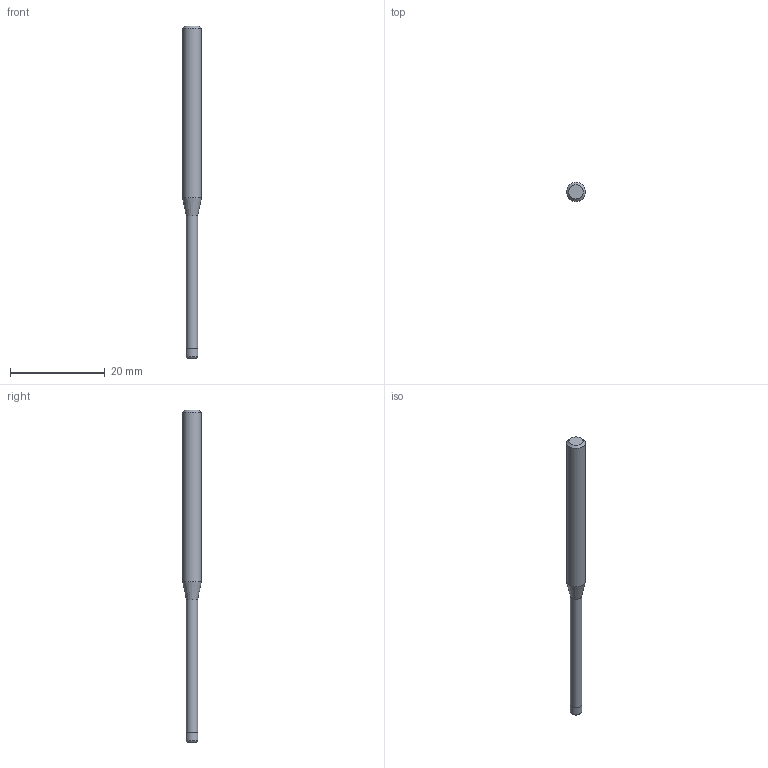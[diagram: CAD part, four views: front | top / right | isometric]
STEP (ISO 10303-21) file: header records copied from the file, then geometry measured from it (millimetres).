
FILE_DESCRIPTION((''),'2;1');
FILE_NAME('C:\Users\nsx150\AppData\Local\Temp\Mastercam 2021\17T8Q8S9EB\TEMP.step','2021-04-21T14:38:46',(''),(''),'STEP Write','Mastercam 2021 ... CNC Software, Inc.','');
FILE_SCHEMA(('AUTOMOTIVE_DESIGN'));
Length unit declared in the file: millimetre
Products named in the file (1): None
Bounding box: 4 x 4 x 70 mm (x, y, z)
Volume: 619.9 mm3; surface area: 741.7 mm2
Topology: 2 solids, 2 shells, 10 faces, 14 edges, 8 vertices
Faces by surface type: plane 4, cylinder 3, cone 2, torus 1
Full cylindrical faces by diameter (mm): 2.39 x1, 2.5 x1, 4 x1
Entity records: 232 total; most frequent: DIRECTION 40, CARTESIAN_POINT 28, AXIS2_PLACEMENT_3D 20, ORIENTED_EDGE 16, EDGE_LOOP 16, STYLED_ITEM 13, ADVANCED_FACE 10, FACE_BOUND 10
